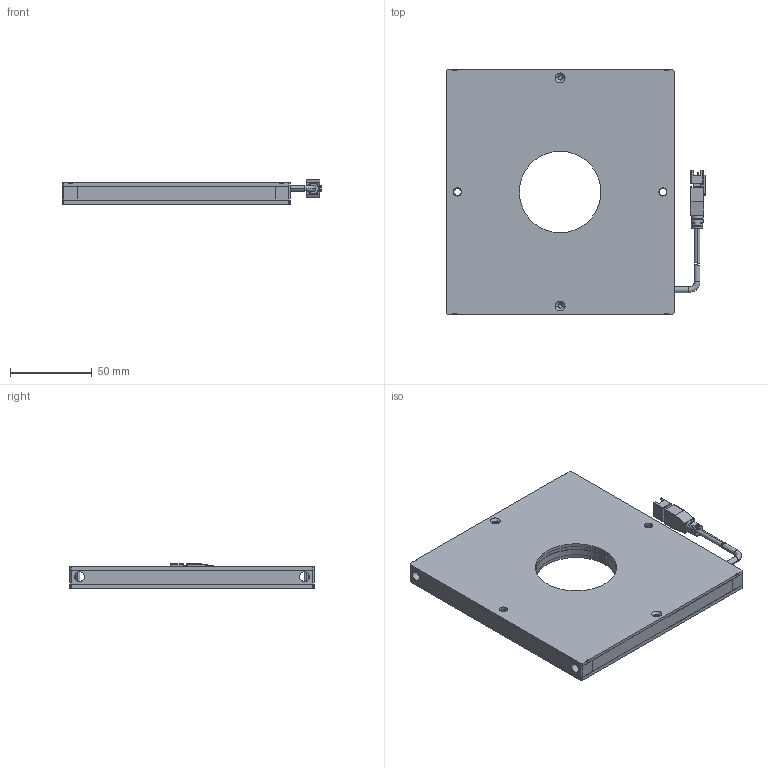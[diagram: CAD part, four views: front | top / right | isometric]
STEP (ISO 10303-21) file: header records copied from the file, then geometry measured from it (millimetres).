
FILE_DESCRIPTION (( 'STEP AP203' ), '1' );
FILE_NAME ('CRT-KFLC110100Y50-¼òÒ×3DÍ¼.STEP', '2021-11-30T01:10:16', ( 'Admin' ), ( '' ), 'SwSTEP 2.0', 'SolidWorks 2018', '' );
FILE_SCHEMA (( 'CONFIG_CONTROL_DESIGN' ));
Length unit declared in the file: millimetre
Products named in the file (1): CRT-KFLC110100Y50-潠眢3D芞
Bounding box: 159.45 x 150 x 14.85 mm (x, y, z)
Surface area: 103018.6 mm2 (no closed solid volume)
Topology: 0 solids, 14 shells, 272 faces, 860 edges, 585 vertices
Faces by surface type: plane 155, cylinder 93, bspline 12, cone 11, torus 1
Entity records: 9971 total; most frequent: CARTESIAN_POINT 2390, DIRECTION 1558, ORIENTED_EDGE 1428, EDGE_CURVE 856, VERTEX_POINT 585, VECTOR 566, LINE 566, AXIS2_PLACEMENT_3D 496
